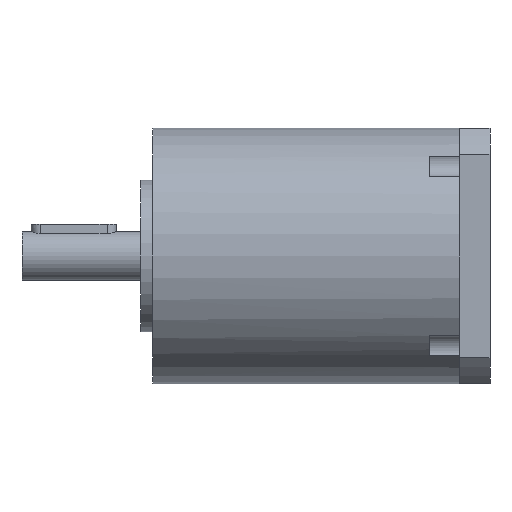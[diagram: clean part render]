
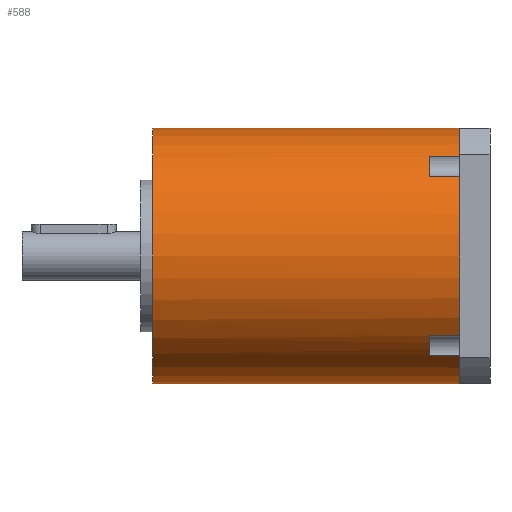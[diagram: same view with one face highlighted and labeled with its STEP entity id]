
A CAD part, left-side view. The second image highlights one B-rep face of the part: STEP entity #588.
In plain terms, the highlighted cylindrical face has radius 21 mm (diameter 42 mm), a partial arc.
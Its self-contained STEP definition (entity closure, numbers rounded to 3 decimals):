
#1 = DIRECTION ( 'NONE',  ( 0., 1., 0. ) ) ;
#9 = VERTEX_POINT ( 'NONE', #1396 ) ;
#15 = CARTESIAN_POINT ( 'NONE',  ( 0., 0., 0. ) ) ;
#44 = VERTEX_POINT ( 'NONE', #1243 ) ;
#81 = ORIENTED_EDGE ( 'NONE', *, *, #666, .F. ) ;
#86 = CIRCLE ( 'NONE', #1546, 21. ) ;
#99 = EDGE_CURVE ( 'NONE', #1160, #917, #522, .T. ) ;
#105 = CARTESIAN_POINT ( 'NONE',  ( 0., 0., 0. ) ) ;
#125 = AXIS2_PLACEMENT_3D ( 'NONE', #698, #613, #619 ) ;
#129 = EDGE_CURVE ( 'NONE', #917, #755, #407, .T. ) ;
#170 = VECTOR ( 'NONE', #1437, 1000. ) ;
#172 = EDGE_CURVE ( 'NONE', #1160, #1181, #350, .T. ) ;
#195 = LINE ( 'NONE', #1417, #170 ) ;
#203 = EDGE_CURVE ( 'NONE', #907, #1473, #315, .T. ) ;
#207 = CARTESIAN_POINT ( 'NONE',  ( 0., 50.5, 0. ) ) ;
#216 = EDGE_CURVE ( 'NONE', #907, #9, #229, .T. ) ;
#229 = LINE ( 'NONE', #1738, #285 ) ;
#241 = CARTESIAN_POINT ( 'NONE',  ( -16.368, 5., 13.156 ) ) ;
#250 = EDGE_CURVE ( 'NONE', #1708, #1415, #195, .T. ) ;
#283 = DIRECTION ( 'NONE',  ( 0., 0., 1. ) ) ;
#285 = VECTOR ( 'NONE', #1684, 1000. ) ;
#288 = DIRECTION ( 'NONE',  ( 0., 0., 1. ) ) ;
#290 = DIRECTION ( 'NONE',  ( 0., -1., 0. ) ) ;
#314 = EDGE_CURVE ( 'NONE', #1655, #44, #86, .T. ) ;
#315 = CIRCLE ( 'NONE', #125, 21. ) ;
#350 = CIRCLE ( 'NONE', #1774, 21. ) ;
#388 = ORIENTED_EDGE ( 'NONE', *, *, #172, .F. ) ;
#407 = CIRCLE ( 'NONE', #1384, 21. ) ;
#437 = CARTESIAN_POINT ( 'NONE',  ( 0., 50.5, 21. ) ) ;
#438 = VECTOR ( 'NONE', #999, 1000. ) ;
#514 = CARTESIAN_POINT ( 'NONE',  ( -13.156, 5., 16.368 ) ) ;
#522 = LINE ( 'NONE', #1776, #438 ) ;
#529 = AXIS2_PLACEMENT_3D ( 'NONE', #1703, #802, #1853 ) ;
#588 = ADVANCED_FACE ( 'NONE', ( #1763 ), #1695, .T. ) ;
#613 = DIRECTION ( 'NONE',  ( 0., 1., 0. ) ) ;
#619 = DIRECTION ( 'NONE',  ( 0., 0., 1. ) ) ;
#649 = AXIS2_PLACEMENT_3D ( 'NONE', #813, #1860, #966 ) ;
#651 = EDGE_CURVE ( 'NONE', #9, #1122, #1581, .T. ) ;
#656 = ORIENTED_EDGE ( 'NONE', *, *, #250, .F. ) ;
#666 = EDGE_CURVE ( 'NONE', #1122, #755, #1559, .T. ) ;
#677 = EDGE_CURVE ( 'NONE', #1305, #1708, #1536, .T. ) ;
#680 = EDGE_CURVE ( 'NONE', #1473, #1415, #1509, .T. ) ;
#698 = CARTESIAN_POINT ( 'NONE',  ( 0., 0., 0. ) ) ;
#709 = ORIENTED_EDGE ( 'NONE', *, *, #129, .T. ) ;
#724 = ORIENTED_EDGE ( 'NONE', *, *, #680, .T. ) ;
#748 = AXIS2_PLACEMENT_3D ( 'NONE', #105, #1280, #288 ) ;
#755 = VERTEX_POINT ( 'NONE', #1587 ) ;
#802 = DIRECTION ( 'NONE',  ( 0., -1., 0. ) ) ;
#813 = CARTESIAN_POINT ( 'NONE',  ( 0., 5., 0. ) ) ;
#885 = ORIENTED_EDGE ( 'NONE', *, *, #1117, .F. ) ;
#889 = VECTOR ( 'NONE', #1414, 1000. ) ;
#893 = CARTESIAN_POINT ( 'NONE',  ( -16.368, 0., -13.156 ) ) ;
#907 = VERTEX_POINT ( 'NONE', #893 ) ;
#915 = LINE ( 'NONE', #1858, #889 ) ;
#916 = DIRECTION ( 'NONE',  ( 0., 0., 1. ) ) ;
#917 = VERTEX_POINT ( 'NONE', #1510 ) ;
#955 = DIRECTION ( 'NONE',  ( 0., 0., 1. ) ) ;
#962 = DIRECTION ( 'NONE',  ( 0., 1., 0. ) ) ;
#966 = DIRECTION ( 'NONE',  ( 0., 0., -1. ) ) ;
#979 = CARTESIAN_POINT ( 'NONE',  ( 0., 0., 0. ) ) ;
#996 = EDGE_CURVE ( 'NONE', #1181, #44, #1060, .T. ) ;
#999 = DIRECTION ( 'NONE',  ( 0., -1., 0. ) ) ;
#1006 = ORIENTED_EDGE ( 'NONE', *, *, #99, .T. ) ;
#1036 = VECTOR ( 'NONE', #1538, 1000. ) ;
#1060 = LINE ( 'NONE', #437, #1036 ) ;
#1075 = CARTESIAN_POINT ( 'NONE',  ( -13.156, 0., 16.368 ) ) ;
#1101 = EDGE_LOOP ( 'NONE', ( #1971, #388, #1006, #709, #81, #1571, #1843, #1568, #724, #656, #1527, #885, #1336 ) ) ;
#1109 = CARTESIAN_POINT ( 'NONE',  ( -13.156, 2.5, -16.368 ) ) ;
#1117 = EDGE_CURVE ( 'NONE', #1655, #1305, #915, .T. ) ;
#1122 = VERTEX_POINT ( 'NONE', #2018 ) ;
#1127 = CARTESIAN_POINT ( 'NONE',  ( 0., 50.5, -21. ) ) ;
#1160 = VERTEX_POINT ( 'NONE', #1127 ) ;
#1181 = VERTEX_POINT ( 'NONE', #1427 ) ;
#1243 = CARTESIAN_POINT ( 'NONE',  ( 0., 0., 21. ) ) ;
#1280 = DIRECTION ( 'NONE',  ( 0., 1., 0. ) ) ;
#1305 = VERTEX_POINT ( 'NONE', #514 ) ;
#1327 = CARTESIAN_POINT ( 'NONE',  ( -16.368, 0., 13.156 ) ) ;
#1336 = ORIENTED_EDGE ( 'NONE', *, *, #314, .T. ) ;
#1384 = AXIS2_PLACEMENT_3D ( 'NONE', #979, #962, #955 ) ;
#1396 = CARTESIAN_POINT ( 'NONE',  ( -16.368, 5., -13.156 ) ) ;
#1414 = DIRECTION ( 'NONE',  ( 0., 1., 0. ) ) ;
#1415 = VERTEX_POINT ( 'NONE', #1327 ) ;
#1417 = CARTESIAN_POINT ( 'NONE',  ( -16.368, 2.5, 13.156 ) ) ;
#1427 = CARTESIAN_POINT ( 'NONE',  ( 0., 50.5, 21. ) ) ;
#1437 = DIRECTION ( 'NONE',  ( 0., -1., 0. ) ) ;
#1473 = VERTEX_POINT ( 'NONE', #1636 ) ;
#1509 = CIRCLE ( 'NONE', #748, 21. ) ;
#1510 = CARTESIAN_POINT ( 'NONE',  ( 0., 0., -21. ) ) ;
#1516 = VECTOR ( 'NONE', #2010, 1000. ) ;
#1527 = ORIENTED_EDGE ( 'NONE', *, *, #677, .F. ) ;
#1536 = CIRCLE ( 'NONE', #649, 21. ) ;
#1538 = DIRECTION ( 'NONE',  ( 0., -1., 0. ) ) ;
#1546 = AXIS2_PLACEMENT_3D ( 'NONE', #15, #1, #916 ) ;
#1559 = LINE ( 'NONE', #1109, #1516 ) ;
#1568 = ORIENTED_EDGE ( 'NONE', *, *, #203, .T. ) ;
#1571 = ORIENTED_EDGE ( 'NONE', *, *, #651, .F. ) ;
#1581 = CIRCLE ( 'NONE', #529, 21. ) ;
#1583 = DIRECTION ( 'NONE',  ( 0., 1., 0. ) ) ;
#1587 = CARTESIAN_POINT ( 'NONE',  ( -13.156, 0., -16.368 ) ) ;
#1636 = CARTESIAN_POINT ( 'NONE',  ( -21., 0., 0. ) ) ;
#1655 = VERTEX_POINT ( 'NONE', #1075 ) ;
#1684 = DIRECTION ( 'NONE',  ( 0., 1., 0. ) ) ;
#1695 = CYLINDRICAL_SURFACE ( 'NONE', #1700, 21. ) ;
#1700 = AXIS2_PLACEMENT_3D ( 'NONE', #1825, #290, #1991 ) ;
#1703 = CARTESIAN_POINT ( 'NONE',  ( 0., 5., 0. ) ) ;
#1708 = VERTEX_POINT ( 'NONE', #241 ) ;
#1738 = CARTESIAN_POINT ( 'NONE',  ( -16.368, 2.5, -13.156 ) ) ;
#1763 = FACE_OUTER_BOUND ( 'NONE', #1101, .T. ) ;
#1774 = AXIS2_PLACEMENT_3D ( 'NONE', #207, #1583, #283 ) ;
#1776 = CARTESIAN_POINT ( 'NONE',  ( 0., 50.5, -21. ) ) ;
#1825 = CARTESIAN_POINT ( 'NONE',  ( 0., 50.5, 0. ) ) ;
#1843 = ORIENTED_EDGE ( 'NONE', *, *, #216, .F. ) ;
#1853 = DIRECTION ( 'NONE',  ( 0., 0., -1. ) ) ;
#1858 = CARTESIAN_POINT ( 'NONE',  ( -13.156, 2.5, 16.368 ) ) ;
#1860 = DIRECTION ( 'NONE',  ( 0., -1., 0. ) ) ;
#1971 = ORIENTED_EDGE ( 'NONE', *, *, #996, .F. ) ;
#1991 = DIRECTION ( 'NONE',  ( 0., 0., -1. ) ) ;
#2010 = DIRECTION ( 'NONE',  ( 0., -1., 0. ) ) ;
#2018 = CARTESIAN_POINT ( 'NONE',  ( -13.156, 5., -16.368 ) ) ;
